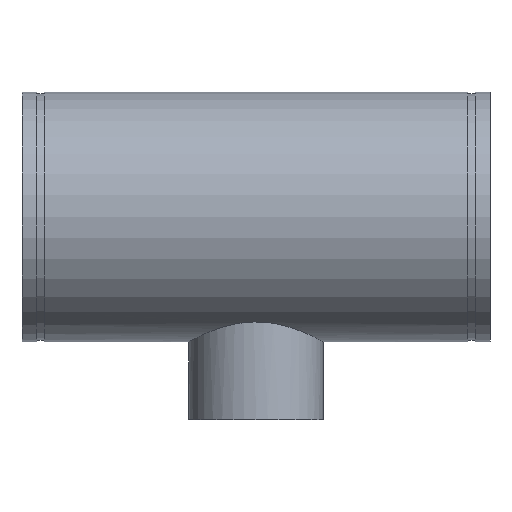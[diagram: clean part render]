
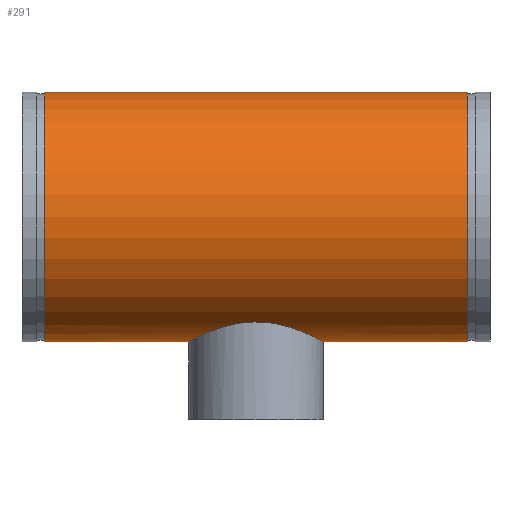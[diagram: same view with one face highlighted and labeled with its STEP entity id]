
A CAD part, top view. The second image highlights one B-rep face of the part: STEP entity #291.
In plain terms, the highlighted cylindrical face has radius 203.2 mm (diameter 406.4 mm), a full revolution.
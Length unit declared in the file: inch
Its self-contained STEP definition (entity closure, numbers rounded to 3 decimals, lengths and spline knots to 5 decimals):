
#45=B_SPLINE_CURVE_WITH_KNOTS('',3,(#511,#512,#513,#514,#515,#516,#517,
#518,#519,#520,#521,#522,#523,#524,#525,#526,#527,#528,#529,#530,#531,#532,
#533,#534,#535,#536,#537,#538,#539,#540,#541,#542,#543,#544,#545,#546,#547,
#548,#549,#550,#551,#552,#553,#554,#555,#556,#557,#558,#559,#560),
 .UNSPECIFIED.,.F.,.F.,(4,2,2,2,2,2,2,2,2,2,2,2,2,2,2,2,2,2,2,2,2,2,2,2,
4),(0.,2.11746,4.23492,6.35239,8.46985,
10.57914,12.68842,14.79771,16.907,19.01628,
21.12557,23.23486,25.34414,27.4616,29.57907,
31.69653,33.81399,35.93145,38.04892,40.16638,
42.28384,44.39313,46.50241,48.6117,50.72099),
 .UNSPECIFIED.);
#46=B_SPLINE_CURVE_WITH_KNOTS('',3,(#561,#562,#563,#564,#565,#566,#567,
#568,#569,#570,#571,#572,#573,#574,#575,#576,#577,#578),.UNSPECIFIED.,.F.,
 .F.,(4,2,2,2,2,2,2,2,4),(50.72099,52.83027,54.93956,
57.04885,59.15813,61.2756,63.39306,65.51052,
67.62798),.UNSPECIFIED.);
#51=LINE('',#508,#59);
#59=VECTOR('',#410,8.);
#67=CYLINDRICAL_SURFACE('',#338,8.);
#77=FACE_BOUND('',#108,.T.);
#88=FACE_OUTER_BOUND('',#107,.T.);
#107=EDGE_LOOP('',(#221,#222,#223,#224));
#108=EDGE_LOOP('',(#225,#226));
#121=CIRCLE('',#321,8.);
#132=CIRCLE('',#337,8.);
#141=VERTEX_POINT('',#476);
#152=VERTEX_POINT('',#505);
#153=VERTEX_POINT('',#509);
#154=VERTEX_POINT('',#510);
#165=EDGE_CURVE('',#141,#141,#121,.T.);
#178=EDGE_CURVE('',#152,#152,#132,.T.);
#179=EDGE_CURVE('',#152,#141,#51,.T.);
#180=EDGE_CURVE('',#153,#154,#45,.T.);
#181=EDGE_CURVE('',#154,#153,#46,.T.);
#221=ORIENTED_EDGE('',*,*,#178,.T.);
#222=ORIENTED_EDGE('',*,*,#179,.T.);
#223=ORIENTED_EDGE('',*,*,#165,.T.);
#224=ORIENTED_EDGE('',*,*,#179,.F.);
#225=ORIENTED_EDGE('',*,*,#180,.F.);
#226=ORIENTED_EDGE('',*,*,#181,.F.);
#291=ADVANCED_FACE('',(#88,#77),#67,.T.);
#321=AXIS2_PLACEMENT_3D('',#477,#372,#373);
#337=AXIS2_PLACEMENT_3D('',#506,#406,#407);
#338=AXIS2_PLACEMENT_3D('',#507,#408,#409);
#372=DIRECTION('center_axis',(-1.,0.,0.));
#373=DIRECTION('ref_axis',(0.,-1.,0.));
#406=DIRECTION('center_axis',(1.,0.,0.));
#407=DIRECTION('ref_axis',(0.,-1.,0.));
#408=DIRECTION('center_axis',(-1.,0.,0.));
#409=DIRECTION('ref_axis',(0.,-1.,0.));
#410=DIRECTION('',(1.,0.,0.));
#476=CARTESIAN_POINT('',(13.562,8.,0.));
#477=CARTESIAN_POINT('Origin',(13.562,0.,0.));
#505=CARTESIAN_POINT('',(-13.562,8.,0.));
#506=CARTESIAN_POINT('Origin',(-13.562,0.,0.));
#507=CARTESIAN_POINT('Origin',(15.,0.,0.));
#508=CARTESIAN_POINT('',(15.,8.,0.));
#509=CARTESIAN_POINT('',(0.,-6.73813,-4.3125));
#510=CARTESIAN_POINT('',(-4.3125,-8.,0.));
#511=CARTESIAN_POINT('Ctrl Pts',(0.,-6.73813,-4.3125));
#512=CARTESIAN_POINT('Ctrl Pts',(0.27788,-6.73813,-4.3125));
#513=CARTESIAN_POINT('Ctrl Pts',(0.5627,-6.75583,-4.28523));
#514=CARTESIAN_POINT('Ctrl Pts',(1.12479,-6.82567,-4.17308));
#515=CARTESIAN_POINT('Ctrl Pts',(1.4021,-6.87767,-4.08827));
#516=CARTESIAN_POINT('Ctrl Pts',(1.93083,-7.00461,-3.86674));
#517=CARTESIAN_POINT('Ctrl Pts',(2.18279,-7.07948,-3.72986));
#518=CARTESIAN_POINT('Ctrl Pts',(2.64775,-7.23637,-3.41553));
#519=CARTESIAN_POINT('Ctrl Pts',(2.86076,-7.31825,-3.23804));
#520=CARTESIAN_POINT('Ctrl Pts',(3.23731,-7.4735,-2.86149));
#521=CARTESIAN_POINT('Ctrl Pts',(3.41469,-7.55269,-2.64884));
#522=CARTESIAN_POINT('Ctrl Pts',(3.7293,-7.70005,-2.18375));
#523=CARTESIAN_POINT('Ctrl Pts',(3.86656,-7.76811,-1.93129));
#524=CARTESIAN_POINT('Ctrl Pts',(4.08852,-7.88094,-1.40149));
#525=CARTESIAN_POINT('Ctrl Pts',(4.17341,-7.92574,-1.12362));
#526=CARTESIAN_POINT('Ctrl Pts',(4.28542,-7.98529,-0.56129));
#527=CARTESIAN_POINT('Ctrl Pts',(4.3125,-8.,-0.27681));
#528=CARTESIAN_POINT('Ctrl Pts',(4.3125,-8.,0.27681));
#529=CARTESIAN_POINT('Ctrl Pts',(4.28542,-7.98529,0.56129));
#530=CARTESIAN_POINT('Ctrl Pts',(4.17341,-7.92574,1.12362));
#531=CARTESIAN_POINT('Ctrl Pts',(4.08852,-7.88094,1.40149));
#532=CARTESIAN_POINT('Ctrl Pts',(3.86656,-7.76811,1.93129));
#533=CARTESIAN_POINT('Ctrl Pts',(3.7293,-7.70005,2.18375));
#534=CARTESIAN_POINT('Ctrl Pts',(3.41469,-7.55269,2.64884));
#535=CARTESIAN_POINT('Ctrl Pts',(3.23731,-7.4735,2.86149));
#536=CARTESIAN_POINT('Ctrl Pts',(2.86076,-7.31825,3.23804));
#537=CARTESIAN_POINT('Ctrl Pts',(2.64775,-7.23637,3.41553));
#538=CARTESIAN_POINT('Ctrl Pts',(2.18279,-7.07948,3.72986));
#539=CARTESIAN_POINT('Ctrl Pts',(1.93083,-7.00461,3.86674));
#540=CARTESIAN_POINT('Ctrl Pts',(1.4021,-6.87767,4.08827));
#541=CARTESIAN_POINT('Ctrl Pts',(1.12479,-6.82567,4.17308));
#542=CARTESIAN_POINT('Ctrl Pts',(0.5627,-6.75583,4.28523));
#543=CARTESIAN_POINT('Ctrl Pts',(0.27788,-6.73813,4.3125));
#544=CARTESIAN_POINT('Ctrl Pts',(-0.27788,-6.73813,4.3125));
#545=CARTESIAN_POINT('Ctrl Pts',(-0.5627,-6.75583,4.28523));
#546=CARTESIAN_POINT('Ctrl Pts',(-1.12479,-6.82567,4.17308));
#547=CARTESIAN_POINT('Ctrl Pts',(-1.4021,-6.87767,4.08827));
#548=CARTESIAN_POINT('Ctrl Pts',(-1.93083,-7.00461,3.86674));
#549=CARTESIAN_POINT('Ctrl Pts',(-2.18279,-7.07948,3.72986));
#550=CARTESIAN_POINT('Ctrl Pts',(-2.64775,-7.23637,3.41553));
#551=CARTESIAN_POINT('Ctrl Pts',(-2.86076,-7.31825,3.23804));
#552=CARTESIAN_POINT('Ctrl Pts',(-3.23731,-7.4735,2.86149));
#553=CARTESIAN_POINT('Ctrl Pts',(-3.41469,-7.55269,2.64884));
#554=CARTESIAN_POINT('Ctrl Pts',(-3.7293,-7.70005,2.18375));
#555=CARTESIAN_POINT('Ctrl Pts',(-3.86656,-7.76811,1.93129));
#556=CARTESIAN_POINT('Ctrl Pts',(-4.08852,-7.88094,1.40149));
#557=CARTESIAN_POINT('Ctrl Pts',(-4.17341,-7.92574,1.12362));
#558=CARTESIAN_POINT('Ctrl Pts',(-4.28542,-7.98529,0.56129));
#559=CARTESIAN_POINT('Ctrl Pts',(-4.3125,-8.,0.27681));
#560=CARTESIAN_POINT('Ctrl Pts',(-4.3125,-8.,0.));
#561=CARTESIAN_POINT('Ctrl Pts',(-4.3125,-8.,0.));
#562=CARTESIAN_POINT('Ctrl Pts',(-4.3125,-8.,-0.27681));
#563=CARTESIAN_POINT('Ctrl Pts',(-4.28542,-7.98529,-0.56129));
#564=CARTESIAN_POINT('Ctrl Pts',(-4.17341,-7.92574,-1.12362));
#565=CARTESIAN_POINT('Ctrl Pts',(-4.08852,-7.88094,-1.40149));
#566=CARTESIAN_POINT('Ctrl Pts',(-3.86656,-7.76811,-1.93129));
#567=CARTESIAN_POINT('Ctrl Pts',(-3.7293,-7.70005,-2.18375));
#568=CARTESIAN_POINT('Ctrl Pts',(-3.41469,-7.55269,-2.64884));
#569=CARTESIAN_POINT('Ctrl Pts',(-3.23731,-7.4735,-2.86149));
#570=CARTESIAN_POINT('Ctrl Pts',(-2.86076,-7.31825,-3.23804));
#571=CARTESIAN_POINT('Ctrl Pts',(-2.64775,-7.23637,-3.41553));
#572=CARTESIAN_POINT('Ctrl Pts',(-2.18279,-7.07948,-3.72986));
#573=CARTESIAN_POINT('Ctrl Pts',(-1.93083,-7.00461,-3.86674));
#574=CARTESIAN_POINT('Ctrl Pts',(-1.4021,-6.87767,-4.08827));
#575=CARTESIAN_POINT('Ctrl Pts',(-1.12479,-6.82567,-4.17308));
#576=CARTESIAN_POINT('Ctrl Pts',(-0.5627,-6.75583,-4.28523));
#577=CARTESIAN_POINT('Ctrl Pts',(-0.27788,-6.73813,-4.3125));
#578=CARTESIAN_POINT('Ctrl Pts',(0.,-6.73813,
-4.3125));
